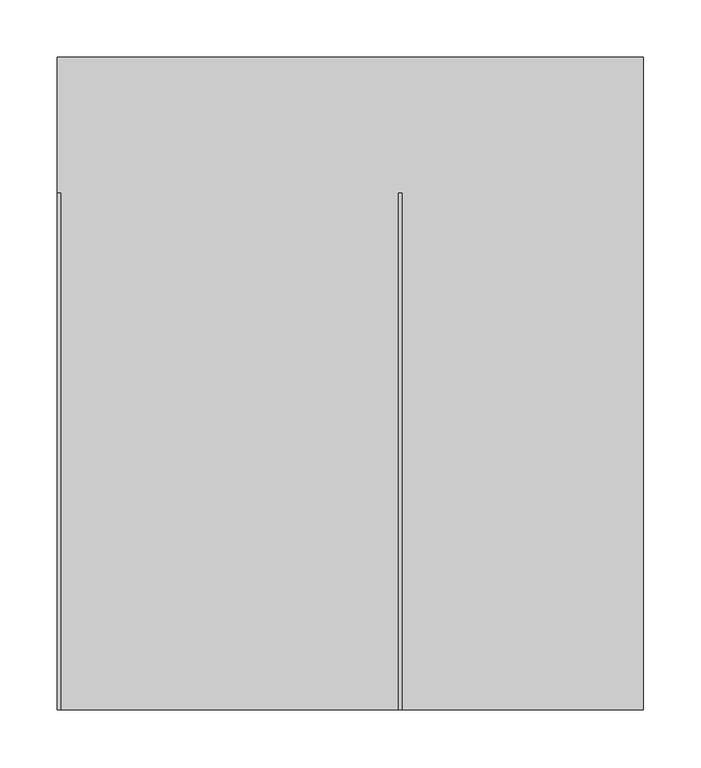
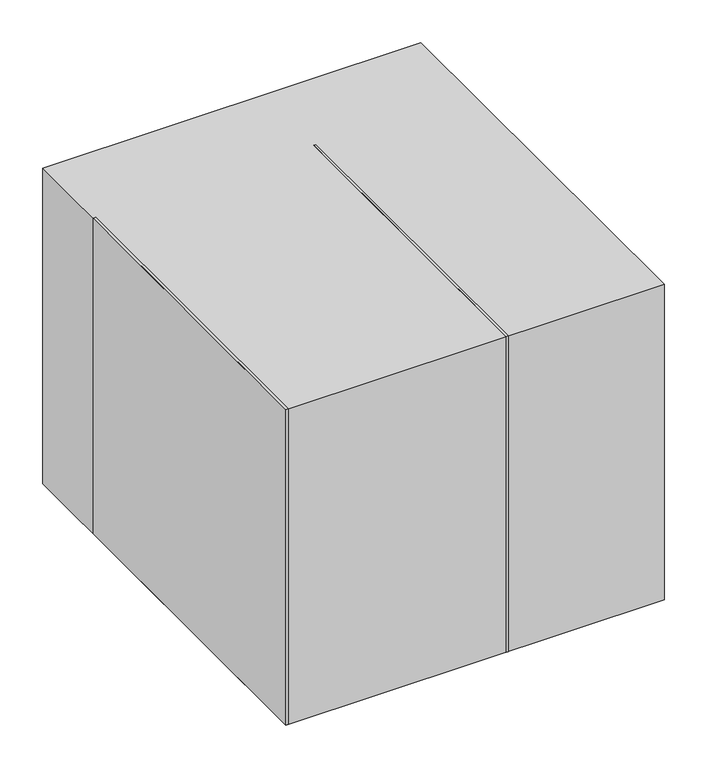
"""IFC4 building model written with IfcOpenShell, lengths in millimetres: damper geometry, КлапанДымовой_LVD : КлапанДымовой_LVD."""

from ifc_helpers import new_model, si_unit, frame, origin, place, context, project, spatial, polyline, outline, extrude, faceted_brep, source, transform, mapped, element, save


def damper_53707811(model_context):
    return source(origin(), model_context, "Body", "SolidModel", [
        extrude(outline(polyline([(70.0, 343.0), (70.0, 200.0), (-130.0, 200.0), (-130.0, 343.0), (70.0, 343.0)])), frame((0.0, 0.0, -52.0), z_axis=(0.0, 0.0, 1.0), x_axis=(1.0, 0.0, 0.0)), (0.0, 0.0, 1.0), 104.0),
        faceted_brep([(150.0, -225.0, 225.0), (150.0, -225.0, -225.0), (150.0, 225.0, -225.0), (150.0, 225.0, 225.0), (-150.0, -225.0, 225.0), (-150.0, 225.0, 225.0), (-150.0, 225.0, -225.0), (-150.0, -225.0, -225.0), (147.0, -225.0, 225.0), (147.0, -225.0, -225.0), (-147.0, -225.0, -225.0), (-147.0, -225.0, 225.0), (147.0, 225.0, -225.0), (-147.0, 225.0, -225.0), (147.0, 225.0, 225.0), (-147.0, 225.0, 225.0), (147.0, 200.0, 200.0), (147.0, -200.0, 200.0), (147.0, -200.0, -200.0), (147.0, 200.0, -200.0), (-147.0, 200.0, 200.0), (-147.0, 200.0, -200.0), (-147.0, -200.0, -200.0), (-147.0, -200.0, 200.0)], [[[0, 1, 2, 3]], [[4, 5, 6, 7]], [[1, 0, 8, 9]], [[4, 7, 10, 11]], [[2, 1, 9, 12]], [[7, 6, 13, 10]], [[3, 2, 12, 14]], [[6, 5, 15, 13]], [[0, 3, 14, 8]], [[5, 4, 11, 15]], [[9, 8, 14, 12], [16, 17, 18, 19]], [[11, 10, 13, 15], [20, 21, 22, 23]], [[16, 19, 21, 20]], [[19, 18, 22, 21]], [[18, 17, 23, 22]], [[17, 16, 20, 23]]]),
        extrude(outline(polyline([(360.0, 343.0), (360.0, -225.0), (-150.0, -225.0), (-150.0, 343.0), (360.0, 343.0)])), frame((0.0, 0.0, -225.0), z_axis=(0.0, 0.0, 1.0), x_axis=(1.0, 0.0, 0.0)), (0.0, 0.0, 1.0), 450.0),
    ])


if __name__ == "__main__":
    model = new_model("IFC4")
    model_context = context("Model", 3, world=origin())
    ifc_project = project(units=[si_unit("LENGTHUNIT", "METRE", prefix="MILLI")], contexts=[model_context])
    site = spatial("IfcSite", under=ifc_project)
    building = spatial("IfcBuilding", under=site)
    placement = place(None, origin())
    damper_shape = damper_53707811(model_context)
    element("IfcDamper", 1, ObjectType="КлапанДымовой_LVD : КлапанДымовой_LVD", at=placement, inside=building, context=model_context, shape_type="MappedRepresentation", body=[
        mapped(damper_shape, transform((0.0, 0.0, 0.0), x_axis=(1.0, 0.0, 0.0), y_axis=(0.0, 1.0, 0.0), z_axis=(0.0, 0.0, 1.0))),
    ])
    save(model, "model.ifc")
